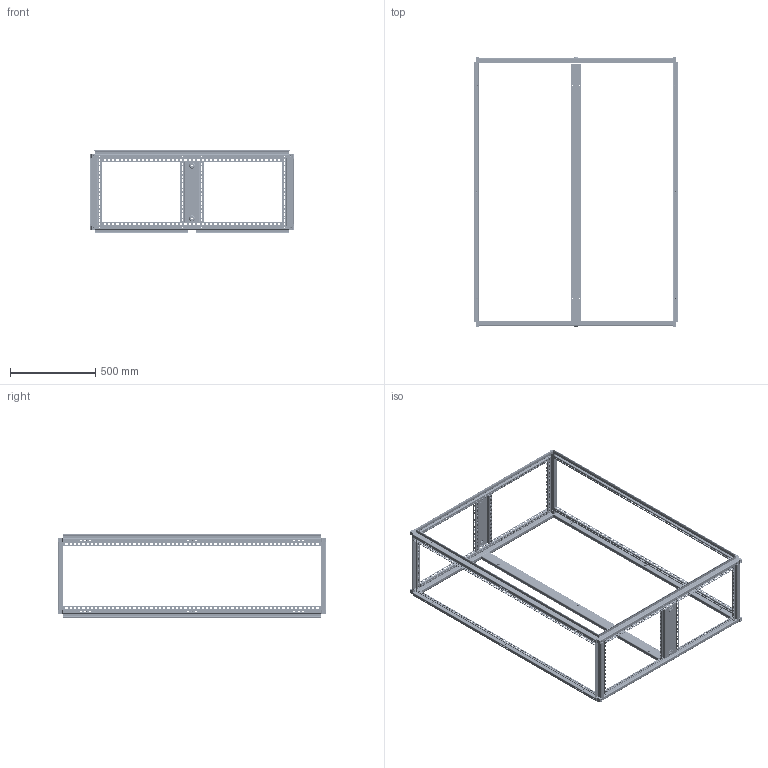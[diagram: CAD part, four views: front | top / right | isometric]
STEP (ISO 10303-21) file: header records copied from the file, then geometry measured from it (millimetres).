
FILE_DESCRIPTION (( 'STEP AP203' ), '1' );
FILE_NAME ('pf16125.STEP', '2015-07-23T13:36:40', ( '' ), ( '' ), 'SwSTEP 2.0', 'SolidWorks 2010', '' );
FILE_SCHEMA (( 'CONFIG_CONTROL_DESIGN' ));
Products named in the file (14): pf16125; 89118719_89118441; 60127013; 30127006; 30127083; 30127084; 30127057; 30127899_30127899; 87938323_87938323; 99411407_99411407; 30127926_30127926; 87937646_87937646; 53412000_53412000; 60127024_As installed
Assembly tree (46 placements, depth 4):
  pf16125
    60127024_As installed  x12
    89118719_89118441
      60127013  x8
      30127006  x4
      30127899_30127899
        99411407_99411407  x6
        87938323_87938323
      30127083  x2
      30127057  x4
      30127084  x2
      30127926_30127926  x2
        87937646_87937646
        53412000_53412000
Bounding box: 1198.8 x 1580 x 488.2 mm (x, y, z)
Volume: 4497789.6 mm3; surface area: 3834664.4 mm2
Topology: 45 solids, 45 shells, 10084 faces, 29728 edges, 19610 vertices
Faces by surface type: plane 6380, cylinder 3444, torus 176, cone 80, bspline 4
Entity records: 103898 total; most frequent: CARTESIAN_POINT 18008, ORIENTED_EDGE 17328, DIRECTION 16580, EDGE_CURVE 8664, LINE 6538, VECTOR 6538, VERTEX_POINT 5727, AXIS2_PLACEMENT_3D 5021
